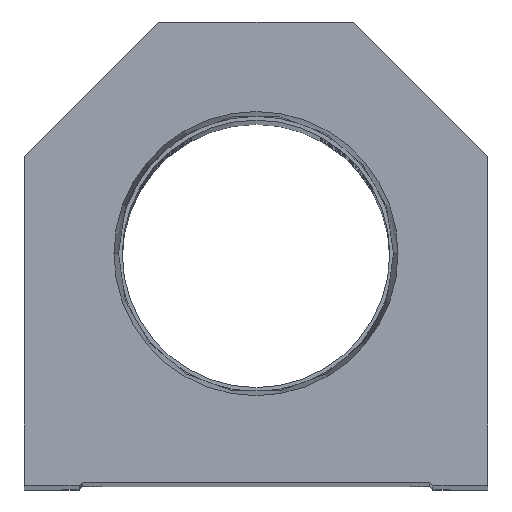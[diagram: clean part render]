
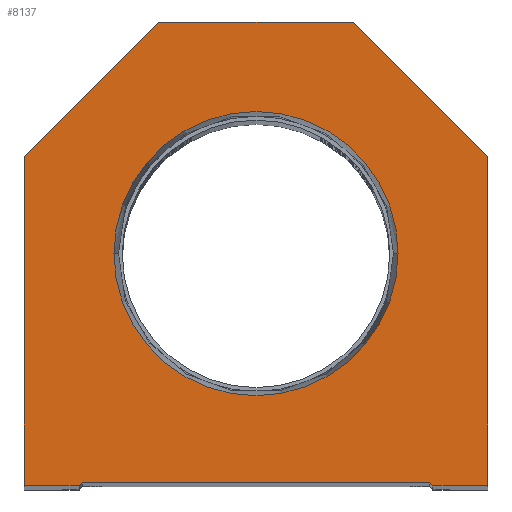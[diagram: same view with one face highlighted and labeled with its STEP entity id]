
A CAD part, top view. The second image highlights one B-rep face of the part: STEP entity #8137.
In plain terms, the highlighted planar face has unit normal (0, 0, 1).
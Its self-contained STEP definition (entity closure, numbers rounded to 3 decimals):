
#156 = CARTESIAN_POINT ( 'NONE',  ( 23.374, 38.1, 0. ) ) ;
#223 = EDGE_CURVE ( 'NONE', #15763, #16902, #19081, .T. ) ;
#696 = VECTOR ( 'NONE', #16063, 1000. ) ;
#787 = DIRECTION ( 'NONE',  ( 1., 0., 0. ) ) ;
#815 = CARTESIAN_POINT ( 'NONE',  ( 0., 38.1, 0. ) ) ;
#821 = AXIS2_PLACEMENT_3D ( 'NONE', #10324, #19477, #5728 ) ;
#1023 = DIRECTION ( 'NONE',  ( 1., 0., 0. ) ) ;
#1411 = VECTOR ( 'NONE', #10139, 1000. ) ;
#1700 = EDGE_LOOP ( 'NONE', ( #7522, #10604, #6394, #17798, #8452, #4559, #13376, #15427, #7423, #14702 ) ) ;
#2184 = LINE ( 'NONE', #11368, #3421 ) ;
#2303 = CARTESIAN_POINT ( 'NONE',  ( 28.6, 0., 0. ) ) ;
#2421 = DIRECTION ( 'NONE',  ( 0., 0., 1. ) ) ;
#2561 = CARTESIAN_POINT ( 'NONE',  ( 38.1, 54.1, 0. ) ) ;
#3229 = LINE ( 'NONE', #13892, #4321 ) ;
#3421 = VECTOR ( 'NONE', #14282, 1000. ) ;
#3634 = VERTEX_POINT ( 'NONE', #19195 ) ;
#3862 = DIRECTION ( 'NONE',  ( 0., 0., 1. ) ) ;
#4127 = CARTESIAN_POINT ( 'NONE',  ( 28.6, 0.5, 0. ) ) ;
#4143 = DIRECTION ( 'NONE',  ( 0., -1., 0. ) ) ;
#4321 = VECTOR ( 'NONE', #7804, 1000. ) ;
#4324 = EDGE_CURVE ( 'NONE', #19885, #13915, #5295, .T. ) ;
#4559 = ORIENTED_EDGE ( 'NONE', *, *, #4324, .T. ) ;
#4677 = EDGE_LOOP ( 'NONE', ( #13273, #10700 ) ) ;
#4747 = CARTESIAN_POINT ( 'NONE',  ( 29.1, 0., 0. ) ) ;
#4947 = CARTESIAN_POINT ( 'NONE',  ( -38.1, 0., 0. ) ) ;
#5092 = CIRCLE ( 'NONE', #8013, 23.374 ) ;
#5111 = DIRECTION ( 'NONE',  ( 1., 0., 0. ) ) ;
#5295 = LINE ( 'NONE', #11397, #13503 ) ;
#5633 = EDGE_CURVE ( 'NONE', #8785, #3634, #6856, .T. ) ;
#5728 = DIRECTION ( 'NONE',  ( 1., 0., 0. ) ) ;
#6043 = DIRECTION ( 'NONE',  ( -1., 0., 0. ) ) ;
#6394 = ORIENTED_EDGE ( 'NONE', *, *, #11616, .T. ) ;
#6505 = CARTESIAN_POINT ( 'NONE',  ( -23.374, 38.1, 0. ) ) ;
#6731 = LINE ( 'NONE', #15557, #14311 ) ;
#6856 = LINE ( 'NONE', #9947, #696 ) ;
#7053 = CARTESIAN_POINT ( 'NONE',  ( -16., 76.2, 0. ) ) ;
#7108 = EDGE_CURVE ( 'NONE', #3634, #15763, #16186, .T. ) ;
#7232 = FACE_OUTER_BOUND ( 'NONE', #1700, .T. ) ;
#7280 = CARTESIAN_POINT ( 'NONE',  ( 38.1, 54.1, 0. ) ) ;
#7423 = ORIENTED_EDGE ( 'NONE', *, *, #5633, .T. ) ;
#7522 = ORIENTED_EDGE ( 'NONE', *, *, #223, .T. ) ;
#7626 = EDGE_CURVE ( 'NONE', #16033, #9289, #6731, .T. ) ;
#7649 = LINE ( 'NONE', #19798, #9802 ) ;
#7661 = CIRCLE ( 'NONE', #17588, 23.374 ) ;
#7804 = DIRECTION ( 'NONE',  ( 1., 0., 0. ) ) ;
#8013 = AXIS2_PLACEMENT_3D ( 'NONE', #815, #2421, #1023 ) ;
#8137 = ADVANCED_FACE ( 'NONE', ( #8727, #7232 ), #13334, .T. ) ;
#8227 = DIRECTION ( 'NONE',  ( 0.707, -0.707, 0. ) ) ;
#8452 = ORIENTED_EDGE ( 'NONE', *, *, #10031, .T. ) ;
#8623 = EDGE_CURVE ( 'NONE', #18430, #19493, #7661, .T. ) ;
#8727 = FACE_BOUND ( 'NONE', #4677, .T. ) ;
#8785 = VERTEX_POINT ( 'NONE', #7053 ) ;
#9289 = VERTEX_POINT ( 'NONE', #4747 ) ;
#9802 = VECTOR ( 'NONE', #6043, 1000. ) ;
#9947 = CARTESIAN_POINT ( 'NONE',  ( -38.1, 54.1, 0. ) ) ;
#10031 = EDGE_CURVE ( 'NONE', #9289, #19885, #11780, .T. ) ;
#10099 = DIRECTION ( 'NONE',  ( 1., 0., 0. ) ) ;
#10139 = DIRECTION ( 'NONE',  ( -0.707, 0.707, 0. ) ) ;
#10324 = CARTESIAN_POINT ( 'NONE',  ( 0., 0., 0. ) ) ;
#10521 = EDGE_CURVE ( 'NONE', #19493, #18430, #5092, .T. ) ;
#10604 = ORIENTED_EDGE ( 'NONE', *, *, #15008, .T. ) ;
#10700 = ORIENTED_EDGE ( 'NONE', *, *, #8623, .F. ) ;
#11368 = CARTESIAN_POINT ( 'NONE',  ( -14.55, 14.55, 0. ) ) ;
#11397 = CARTESIAN_POINT ( 'NONE',  ( 38.1, 0., 0. ) ) ;
#11595 = CARTESIAN_POINT ( 'NONE',  ( 0., 38.1, 0. ) ) ;
#11616 = EDGE_CURVE ( 'NONE', #17834, #16033, #3229, .T. ) ;
#11663 = CARTESIAN_POINT ( 'NONE',  ( -38.1, 0., 0. ) ) ;
#11780 = LINE ( 'NONE', #2303, #17956 ) ;
#12076 = EDGE_CURVE ( 'NONE', #13915, #17700, #19395, .T. ) ;
#12213 = EDGE_CURVE ( 'NONE', #17700, #8785, #7649, .T. ) ;
#12772 = CARTESIAN_POINT ( 'NONE',  ( 38.1, 0., 0. ) ) ;
#13148 = CARTESIAN_POINT ( 'NONE',  ( -29.1, 0., 0. ) ) ;
#13273 = ORIENTED_EDGE ( 'NONE', *, *, #10521, .F. ) ;
#13334 = PLANE ( 'NONE',  #821 ) ;
#13376 = ORIENTED_EDGE ( 'NONE', *, *, #12076, .T. ) ;
#13503 = VECTOR ( 'NONE', #17536, 1000. ) ;
#13892 = CARTESIAN_POINT ( 'NONE',  ( -28.6, 0.5, 0. ) ) ;
#13915 = VERTEX_POINT ( 'NONE', #7280 ) ;
#14086 = CARTESIAN_POINT ( 'NONE',  ( -28.6, 0.5, 0. ) ) ;
#14211 = CARTESIAN_POINT ( 'NONE',  ( 16., 76.2, 0. ) ) ;
#14282 = DIRECTION ( 'NONE',  ( 0.707, 0.707, 0. ) ) ;
#14311 = VECTOR ( 'NONE', #8227, 1000. ) ;
#14702 = ORIENTED_EDGE ( 'NONE', *, *, #7108, .T. ) ;
#15008 = EDGE_CURVE ( 'NONE', #16902, #17834, #2184, .T. ) ;
#15427 = ORIENTED_EDGE ( 'NONE', *, *, #12213, .T. ) ;
#15557 = CARTESIAN_POINT ( 'NONE',  ( 14.55, 14.55, 0. ) ) ;
#15763 = VERTEX_POINT ( 'NONE', #4947 ) ;
#15898 = VECTOR ( 'NONE', #4143, 1000. ) ;
#16033 = VERTEX_POINT ( 'NONE', #4127 ) ;
#16063 = DIRECTION ( 'NONE',  ( -0.707, -0.707, 0. ) ) ;
#16186 = LINE ( 'NONE', #11663, #15898 ) ;
#16902 = VERTEX_POINT ( 'NONE', #13148 ) ;
#17536 = DIRECTION ( 'NONE',  ( 0., 1., 0. ) ) ;
#17588 = AXIS2_PLACEMENT_3D ( 'NONE', #11595, #3862, #10099 ) ;
#17700 = VERTEX_POINT ( 'NONE', #14211 ) ;
#17798 = ORIENTED_EDGE ( 'NONE', *, *, #7626, .T. ) ;
#17834 = VERTEX_POINT ( 'NONE', #14086 ) ;
#17956 = VECTOR ( 'NONE', #787, 1000. ) ;
#18430 = VERTEX_POINT ( 'NONE', #6505 ) ;
#18872 = CARTESIAN_POINT ( 'NONE',  ( -28.6, 0., 0. ) ) ;
#19072 = VECTOR ( 'NONE', #5111, 1000. ) ;
#19081 = LINE ( 'NONE', #18872, #19072 ) ;
#19195 = CARTESIAN_POINT ( 'NONE',  ( -38.1, 54.1, 0. ) ) ;
#19395 = LINE ( 'NONE', #2561, #1411 ) ;
#19477 = DIRECTION ( 'NONE',  ( 0., 0., 1. ) ) ;
#19493 = VERTEX_POINT ( 'NONE', #156 ) ;
#19798 = CARTESIAN_POINT ( 'NONE',  ( 16., 76.2, 0. ) ) ;
#19885 = VERTEX_POINT ( 'NONE', #12772 ) ;
